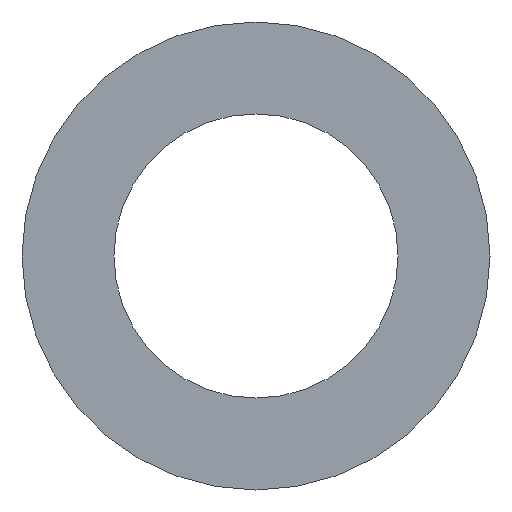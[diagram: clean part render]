
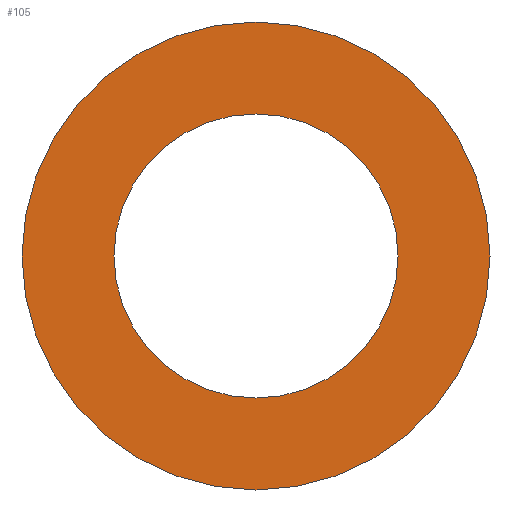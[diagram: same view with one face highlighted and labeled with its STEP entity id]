
A CAD part, front view. The second image highlights one B-rep face of the part: STEP entity #105.
In plain terms, the highlighted planar face has unit normal (0, -1, 0).
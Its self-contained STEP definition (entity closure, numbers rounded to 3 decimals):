
#21 = EDGE_CURVE('',#22,#22,#24,.T.);
#22 = VERTEX_POINT('',#23);
#23 = CARTESIAN_POINT('',(28.,-64.,0.));
#24 = SURFACE_CURVE('',#25,(#30,#42),.PCURVE_S1.);
#25 = CIRCLE('',#26,28.);
#26 = AXIS2_PLACEMENT_3D('',#27,#28,#29);
#27 = CARTESIAN_POINT('',(0.,-64.,0.));
#28 = DIRECTION('',(0.,-1.,0.));
#29 = DIRECTION('',(1.,0.,0.));
#30 = PCURVE('',#31,#36);
#31 = CYLINDRICAL_SURFACE('',#32,28.);
#32 = AXIS2_PLACEMENT_3D('',#33,#34,#35);
#33 = CARTESIAN_POINT('',(0.,64.,0.));
#34 = DIRECTION('',(0.,-1.,0.));
#35 = DIRECTION('',(1.,0.,0.));
#36 = DEFINITIONAL_REPRESENTATION('',(#37),#41);
#37 = LINE('',#38,#39);
#38 = CARTESIAN_POINT('',(0.,128.));
#39 = VECTOR('',#40,1.);
#40 = DIRECTION('',(1.,0.));
#41 = ( GEOMETRIC_REPRESENTATION_CONTEXT(2) 
PARAMETRIC_REPRESENTATION_CONTEXT() REPRESENTATION_CONTEXT('2D SPACE',''
  ) );
#42 = PCURVE('',#43,#48);
#43 = PLANE('',#44);
#44 = AXIS2_PLACEMENT_3D('',#45,#46,#47);
#45 = CARTESIAN_POINT('',(0.,-64.,0.));
#46 = DIRECTION('',(0.,-1.,0.));
#47 = DIRECTION('',(1.,0.,0.));
#48 = DEFINITIONAL_REPRESENTATION('',(#49),#53);
#49 = CIRCLE('',#50,28.);
#50 = AXIS2_PLACEMENT_2D('',#51,#52);
#51 = CARTESIAN_POINT('',(0.,0.));
#52 = DIRECTION('',(1.,0.));
#53 = ( GEOMETRIC_REPRESENTATION_CONTEXT(2) 
PARAMETRIC_REPRESENTATION_CONTEXT() REPRESENTATION_CONTEXT('2D SPACE',''
  ) );
#105 = ADVANCED_FACE('',(#106,#109),#43,.T.);
#106 = FACE_BOUND('',#107,.T.);
#107 = EDGE_LOOP('',(#108));
#108 = ORIENTED_EDGE('',*,*,#21,.T.);
#109 = FACE_BOUND('',#110,.T.);
#110 = EDGE_LOOP('',(#111));
#111 = ORIENTED_EDGE('',*,*,#112,.F.);
#112 = EDGE_CURVE('',#113,#113,#115,.T.);
#113 = VERTEX_POINT('',#114);
#114 = CARTESIAN_POINT('',(17.,-64.,0.));
#115 = SURFACE_CURVE('',#116,(#121,#128),.PCURVE_S1.);
#116 = CIRCLE('',#117,17.);
#117 = AXIS2_PLACEMENT_3D('',#118,#119,#120);
#118 = CARTESIAN_POINT('',(0.,-64.,0.));
#119 = DIRECTION('',(0.,-1.,0.));
#120 = DIRECTION('',(1.,0.,0.));
#121 = PCURVE('',#43,#122);
#122 = DEFINITIONAL_REPRESENTATION('',(#123),#127);
#123 = CIRCLE('',#124,17.);
#124 = AXIS2_PLACEMENT_2D('',#125,#126);
#125 = CARTESIAN_POINT('',(0.,0.));
#126 = DIRECTION('',(1.,0.));
#127 = ( GEOMETRIC_REPRESENTATION_CONTEXT(2) 
PARAMETRIC_REPRESENTATION_CONTEXT() REPRESENTATION_CONTEXT('2D SPACE',''
  ) );
#128 = PCURVE('',#129,#134);
#129 = CYLINDRICAL_SURFACE('',#130,17.);
#130 = AXIS2_PLACEMENT_3D('',#131,#132,#133);
#131 = CARTESIAN_POINT('',(0.,65.,0.));
#132 = DIRECTION('',(0.,-1.,0.));
#133 = DIRECTION('',(1.,0.,0.));
#134 = DEFINITIONAL_REPRESENTATION('',(#135),#139);
#135 = LINE('',#136,#137);
#136 = CARTESIAN_POINT('',(0.,129.));
#137 = VECTOR('',#138,1.);
#138 = DIRECTION('',(1.,0.));
#139 = ( GEOMETRIC_REPRESENTATION_CONTEXT(2) 
PARAMETRIC_REPRESENTATION_CONTEXT() REPRESENTATION_CONTEXT('2D SPACE',''
  ) );
